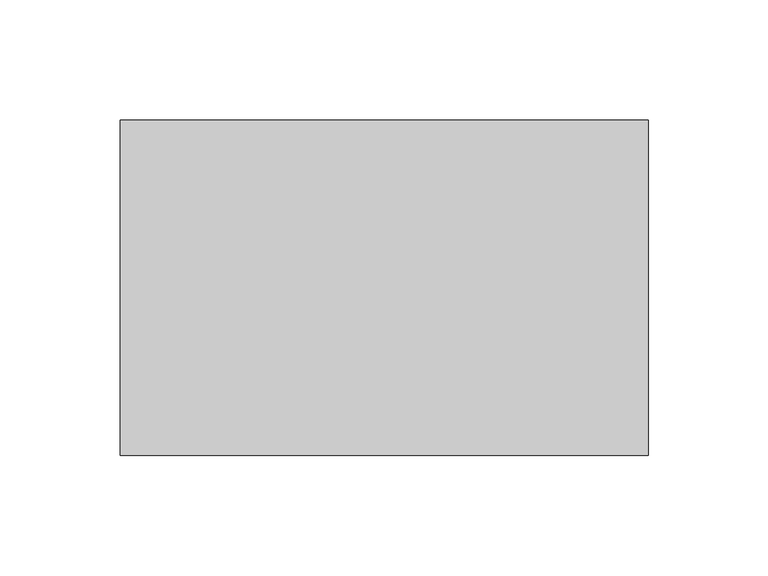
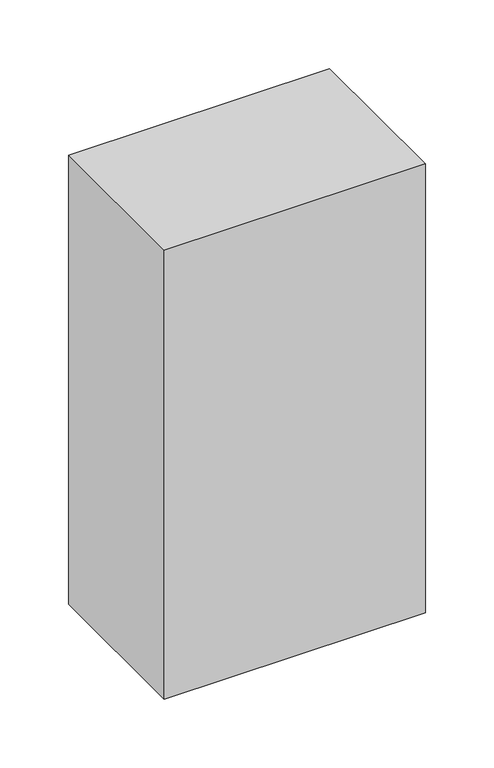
"""IFC4 building model written with IfcOpenShell, lengths in millimetres: proxy geometry."""

from ifc_helpers import new_model, si_unit, frame, origin, place, context, project, spatial, polyline, outline, extrude, source, transform, mapped, element, save


def structural_framing_fc09ec62(model_context):
    return source(origin(), model_context, "Body", "SweptSolid", [
        extrude(outline(polyline([(-110.0, -70.0), (-110.0, 70.0), (110.0, 70.0), (110.0, -70.0), (-110.0, -70.0)])), frame((0.0, 0.0, -400.0), z_axis=(0.0, 0.0, 1.0), x_axis=(1.0, 0.0, 0.0)), (0.0, 0.0, 1.0), 400.0),
    ])


if __name__ == "__main__":
    model = new_model("IFC4")
    model_context = context("Model", 3, world=origin())
    ifc_project = project(units=[si_unit("LENGTHUNIT", "METRE", prefix="MILLI")], contexts=[model_context])
    site = spatial("IfcSite", under=ifc_project)
    building = spatial("IfcBuilding", under=site)
    placement = place(None, origin())
    structural_framing_shape = structural_framing_fc09ec62(model_context)
    element("IfcBuildingElementProxy", 1, Name="Structural Framing", at=placement, inside=building, context=model_context, shape_type="MappedRepresentation", body=[
        mapped(structural_framing_shape, transform((0.0, 0.0, 0.0), x_axis=(1.0, 0.0, 0.0), y_axis=(0.0, 1.0, 0.0), z_axis=(0.0, 0.0, 1.0))),
    ])
    save(model, "model.ifc")
